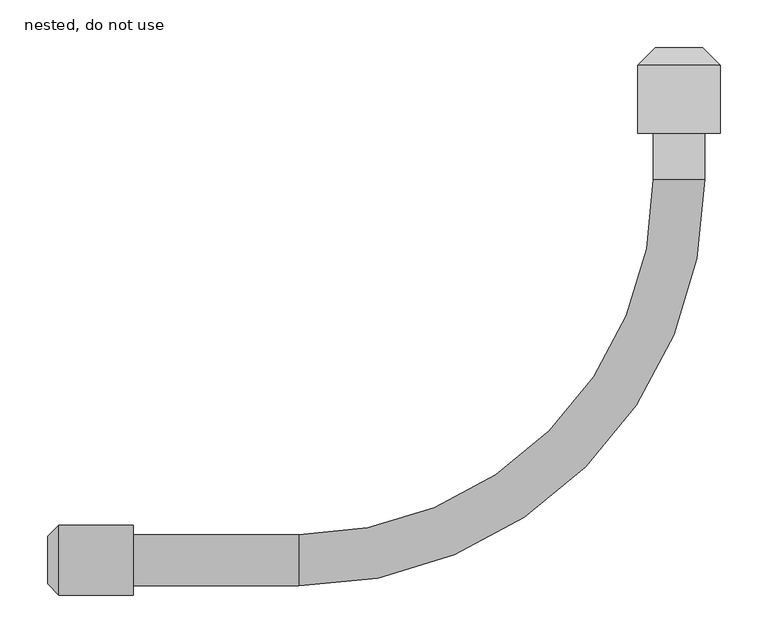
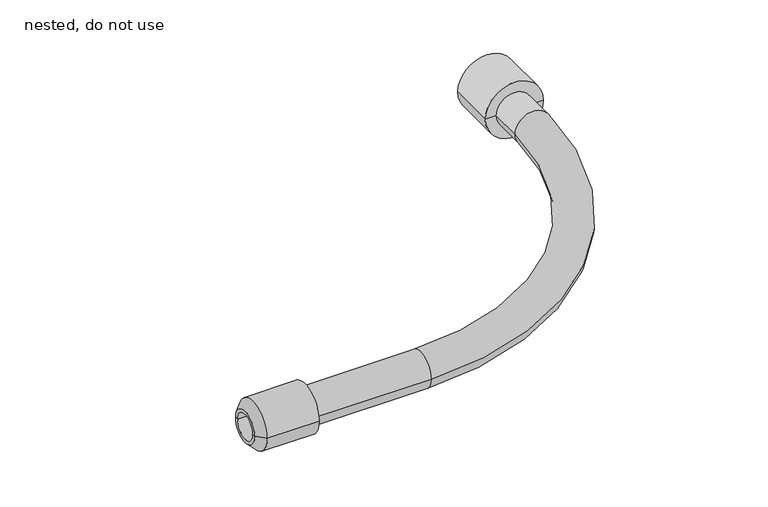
"""IFC4 building model written with IfcOpenShell, lengths in millimetres: pipe segment geometry, NLRS_52_PIF_UN_Vacurain Flex slang_SH_Dyka : nested, do not use."""

from ifc_helpers import new_model, si_unit, point, frame, origin, place, context, project, spatial, polyline, circle_curve, ellipse_curve, trimmed, source, transform, mapped, element, save
from ifc_brep_helpers import plane_surface, cylinder_surface, revolved_surface, advanced_brep


def nested_do_not_use_e4e1583a(model_context):
    return source(origin(), model_context, "Body", "AdvancedBrep", [
        advanced_brep(
        [(-574.0, -527.0, 0.0), (-574.0, -473.0, 0.0), (-400.0, -527.0, 0.0), (-400.0, -473.0, 0.0), (-27.0, -100.0, 0.0), (27.0, -100.0, 0.0), (27.0, -51.0, 0.0), (-27.0, -51.0, 0.0)],
        [
            (0, 1, circle_curve(frame((-574.0, -500.0, 0.0), z_axis=(-1.0, 0.0, 0.0), x_axis=(0.0, 1.0, 0.0)), 27.0)),
            (1, 0, circle_curve(frame((-574.0, -500.0, 0.0), z_axis=(-1.0, 0.0, 0.0), x_axis=(0.0, 1.0, 0.0)), 27.0)),
            (0, 2),
            (2, 3, circle_curve(frame((-400.0, -500.0, 0.0), z_axis=(-1.0, 0.0, 0.0), x_axis=(0.0, 1.0, 0.0)), 27.0)),
            (3, 1),
            (3, 2, circle_curve(frame((-400.0, -500.0, 0.0), z_axis=(-1.0, 0.0, 0.0), x_axis=(0.0, 1.0, 0.0)), 27.0)),
            (4, 3, circle_curve(frame((-400.0, -100.0, 0.0), z_axis=(0.0, 0.0, -1.0), x_axis=(0.0, -1.0, 0.0)), 373.0)),
            (2, 5, circle_curve(frame((-400.0, -100.0, 0.0), z_axis=(0.0, 0.0, 1.0), x_axis=(0.0, -1.0, 0.0)), 427.0)),
            (5, 4, circle_curve(frame((0.0, -100.0, 0.0), z_axis=(0.0, -1.0, 0.0), x_axis=(-1.0, 0.0, 0.0)), 27.0)),
            (4, 5, circle_curve(frame((0.0, -100.0, 0.0), z_axis=(0.0, -1.0, 0.0), x_axis=(-1.0, 0.0, 0.0)), 27.0)),
            (6, 7, circle_curve(frame((0.0, -51.0, 0.0), z_axis=(0.0, 1.0, 0.0), x_axis=(-1.0, 0.0, 0.0)), 27.0)),
            (7, 6, circle_curve(frame((0.0, -51.0, 0.0), z_axis=(0.0, 1.0, 0.0), x_axis=(-1.0, 0.0, 0.0)), 27.0)),
            (5, 6),
            (7, 4),
        ],
        [
            plane_surface(frame((-574.0, -500.0, 0.0), z_axis=(-1.0, 0.0, 0.0), x_axis=(0.0, 0.0, 1.0))),
            cylinder_surface(frame((-574.0, -500.0, 0.0), z_axis=(-1.0, 0.0, 0.0), x_axis=(0.0, 1.0, 0.0)), 27.0),
            revolved_surface(trimmed(ellipse_curve(frame((-400.0, -500.0, 0.0), z_axis=(-1.0, 0.0, 0.0), x_axis=(0.0, 1.0, 0.0)), 27.0, 27.0), [point((-400.0, -527.0, 0.0))], [point((-400.0, -473.0, 0.0))], True, "CARTESIAN"), (-400.0, -100.0, 0.0), (0.0, 0.0, 1.0)),
            revolved_surface(trimmed(ellipse_curve(frame((-400.0, -500.0, 0.0), z_axis=(-1.0, 0.0, 0.0), x_axis=(0.0, 1.0, 0.0)), 27.0, 27.0), [point((-400.0, -473.0, 0.0))], [point((-400.0, -527.0, 0.0))], True, "CARTESIAN"), (-400.0, -100.0, 0.0), (0.0, 0.0, 1.0)),
            plane_surface(frame((0.0, -51.0, 0.0), z_axis=(0.0, 1.0, 0.0), x_axis=(0.0, 0.0, 1.0))),
            cylinder_surface(frame((0.0, -100.0, 0.0), z_axis=(0.0, -1.0, 0.0), x_axis=(-1.0, 0.0, 0.0)), 27.0),
        ],
        [
            (0, [[1, 2]]),
            (1, [[-1, 3, 4, 5]]),
            (1, [[-2, -5, 6, -3]]),
            (2, [[7, -4, 8, 9]]),
            (3, [[-8, -6, -7, 10]]),
            (4, [[11, 12]]),
            (5, [[-9, 13, -12, 14]]),
            (5, [[-10, -14, -11, -13]]),
        ],
    ),
        advanced_brep(
        [(-625.0, -520.0, 0.0), (-625.0, -480.0, 0.0), (-664.0, -480.0, 0.0), (-664.0, -520.0, 0.0), (-625.0, -500.0, 0.0), (-574.0, -537.0, 0.0), (-574.0, -463.0, 0.0), (-574.0, -500.0, 0.0), (-652.0, -537.0, 0.0), (-652.0, -463.0, 0.0), (-664.0, -525.0, 0.0), (-664.0, -475.0, 0.0)],
        [
            (0, 1, circle_curve(frame((-625.0, -500.0, 0.0), z_axis=(1.0, 0.0, 0.0), x_axis=(0.0, 1.0, 0.0)), 20.0)),
            (1, 2),
            (2, 3, circle_curve(frame((-664.0, -500.0, 0.0), z_axis=(-1.0, 0.0, 0.0), x_axis=(0.0, 1.0, 0.0)), 20.0)),
            (3, 0),
            (1, 0, circle_curve(frame((-625.0, -500.0, 0.0), z_axis=(1.0, 0.0, 0.0), x_axis=(0.0, 1.0, 0.0)), 20.0)),
            (3, 2, circle_curve(frame((-664.0, -500.0, 0.0), z_axis=(-1.0, 0.0, 0.0), x_axis=(0.0, 1.0, 0.0)), 20.0)),
            (4, 1),
            (0, 4),
            (5, 6, circle_curve(frame((-574.0, -500.0, 0.0), z_axis=(1.0, 0.0, 0.0), x_axis=(0.0, 1.0, 0.0)), 37.0)),
            (6, 7),
            (7, 5),
            (6, 5, circle_curve(frame((-574.0, -500.0, 0.0), z_axis=(1.0, 0.0, 0.0), x_axis=(0.0, 1.0, 0.0)), 37.0)),
            (8, 9, circle_curve(frame((-652.0, -500.0, 0.0), z_axis=(1.0, 0.0, 0.0), x_axis=(0.0, 1.0, 0.0)), 37.0)),
            (9, 6),
            (5, 8),
            (9, 8, circle_curve(frame((-652.0, -500.0, 0.0), z_axis=(1.0, 0.0, 0.0), x_axis=(0.0, 1.0, 0.0)), 37.0)),
            (10, 11, circle_curve(frame((-664.0, -500.0, 0.0), z_axis=(1.0, 0.0, 0.0), x_axis=(0.0, 1.0, 0.0)), 25.0)),
            (11, 9),
            (8, 10),
            (11, 10, circle_curve(frame((-664.0, -500.0, 0.0), z_axis=(1.0, 0.0, 0.0), x_axis=(0.0, 1.0, 0.0)), 25.0)),
            (2, 11),
            (10, 3),
        ],
        [
            revolved_surface(polyline([(-664.0, -480.0, 0.0), (-625.0, -480.0, 0.0)]), (-666.0, -500.0, 0.0), (-1.0, 0.0, 0.0)),
            plane_surface(frame((-625.0, -500.0, 0.0), z_axis=(-1.0, 0.0, 0.0), x_axis=(0.0, 1.0, 0.0))),
            plane_surface(frame((-574.0, -500.0, 0.0), z_axis=(1.0, 0.0, 0.0), x_axis=(0.0, 1.0, 0.0))),
            cylinder_surface(frame((-666.0, -500.0, 0.0), z_axis=(-1.0, 0.0, 0.0), x_axis=(0.0, 1.0, 0.0)), 37.0),
            revolved_surface(polyline([(-652.0, -463.0, 0.0), (-664.0, -475.0, 0.0)]), (-666.0, -500.0, 0.0), (-1.0, 0.0, 0.0)),
            plane_surface(frame((-664.0, -500.0, 0.0), z_axis=(-1.0, 0.0, 0.0), x_axis=(0.0, 1.0, 0.0))),
        ],
        [
            (0, [[1, 2, 3, 4]]),
            (0, [[5, -4, 6, -2]]),
            (1, [[7, -1, 8]]),
            (1, [[-8, -5, -7]]),
            (2, [[9, 10, 11]]),
            (2, [[12, -11, -10]]),
            (3, [[13, 14, -9, 15]]),
            (3, [[16, -15, -12, -14]]),
            (4, [[17, 18, -13, 19]]),
            (4, [[20, -19, -16, -18]]),
            (5, [[-3, 21, -17, 22]]),
            (5, [[-6, -22, -20, -21]]),
        ],
    ),
        advanced_brep(
        [(43.5, -51.0, 0.0), (-43.5, -51.0, 0.0), (-43.5, 20.5, 0.0), (43.5, 20.5, 0.0), (0.0, -51.0, 0.0), (25.0, 0.0, 0.0), (-25.0, 0.0, 0.0), (0.0, 0.0, 0.0), (25.0, 39.0, 0.0), (-25.0, 39.0, 0.0)],
        [
            (0, 1, circle_curve(frame((0.0, -51.0, 0.0), z_axis=(0.0, 1.0, 0.0), x_axis=(-1.0, 0.0, 0.0)), 43.5)),
            (1, 2),
            (2, 3, circle_curve(frame((0.0, 20.5, 0.0), z_axis=(0.0, -1.0, 0.0), x_axis=(-1.0, 0.0, 0.0)), 43.5)),
            (3, 0),
            (1, 0, circle_curve(frame((0.0, -51.0, 0.0), z_axis=(0.0, 1.0, 0.0), x_axis=(-1.0, 0.0, 0.0)), 43.5)),
            (3, 2, circle_curve(frame((0.0, 20.5, 0.0), z_axis=(0.0, -1.0, 0.0), x_axis=(-1.0, 0.0, 0.0)), 43.5)),
            (4, 1),
            (0, 4),
            (5, 6, circle_curve(frame((0.0, 0.0, 0.0), z_axis=(0.0, 1.0, 0.0), x_axis=(-1.0, 0.0, 0.0)), 25.0)),
            (6, 7),
            (7, 5),
            (6, 5, circle_curve(frame((0.0, 0.0, 0.0), z_axis=(0.0, 1.0, 0.0), x_axis=(-1.0, 0.0, 0.0)), 25.0)),
            (8, 9, circle_curve(frame((0.0, 39.0, 0.0), z_axis=(0.0, 1.0, 0.0), x_axis=(-1.0, 0.0, 0.0)), 25.0)),
            (9, 6),
            (5, 8),
            (9, 8, circle_curve(frame((0.0, 39.0, 0.0), z_axis=(0.0, 1.0, 0.0), x_axis=(-1.0, 0.0, 0.0)), 25.0)),
            (2, 9),
            (8, 3),
        ],
        [
            cylinder_surface(frame((0.0, 2019.0, 0.0), z_axis=(0.0, -1.0, 0.0), x_axis=(-1.0, 0.0, 0.0)), 43.5),
            plane_surface(frame((0.0, -51.0, 0.0), z_axis=(0.0, -1.0, 0.0), x_axis=(-1.0, 0.0, 0.0))),
            plane_surface(frame((0.0, 0.0, 0.0), z_axis=(0.0, 1.0, 0.0), x_axis=(-1.0, 0.0, 0.0))),
            revolved_surface(polyline([(-25.0, 0.0, 0.0), (-25.0, 39.0, 0.0)]), (0.0, 2019.0, 0.0), (0.0, -1.0, 0.0)),
            revolved_surface(polyline([(-25.0, 39.0, 0.0), (-43.5, 20.5, 0.0)]), (0.0, 2019.0, 0.0), (0.0, -1.0, 0.0)),
        ],
        [
            (0, [[1, 2, 3, 4]]),
            (0, [[5, -4, 6, -2]]),
            (1, [[7, -1, 8]]),
            (1, [[-8, -5, -7]]),
            (2, [[9, 10, 11]]),
            (2, [[12, -11, -10]]),
            (3, [[13, 14, -9, 15]]),
            (3, [[16, -15, -12, -14]]),
            (4, [[-3, 17, -13, 18]]),
            (4, [[-6, -18, -16, -17]]),
        ],
    ),
    ])


if __name__ == "__main__":
    model = new_model("IFC4")
    model_context = context("Model", 3, world=origin())
    ifc_project = project(units=[si_unit("LENGTHUNIT", "METRE", prefix="MILLI")], contexts=[model_context])
    site = spatial("IfcSite", under=ifc_project)
    building = spatial("IfcBuilding", under=site)
    placement = place(None, origin())
    nested_do_not_use_shape = nested_do_not_use_e4e1583a(model_context)
    element("IfcPipeSegment", 1, ObjectType="NLRS_52_PIF_UN_Vacurain Flex slang_SH_Dyka : nested, do not use", at=placement, inside=building, context=model_context, shape_type="MappedRepresentation", body=[
        mapped(nested_do_not_use_shape, transform((0.0, 0.0, 0.0), x_axis=(1.0, 0.0, 0.0), y_axis=(0.0, 1.0, 0.0), z_axis=(0.0, 0.0, 1.0))),
    ])
    save(model, "model.ifc")
